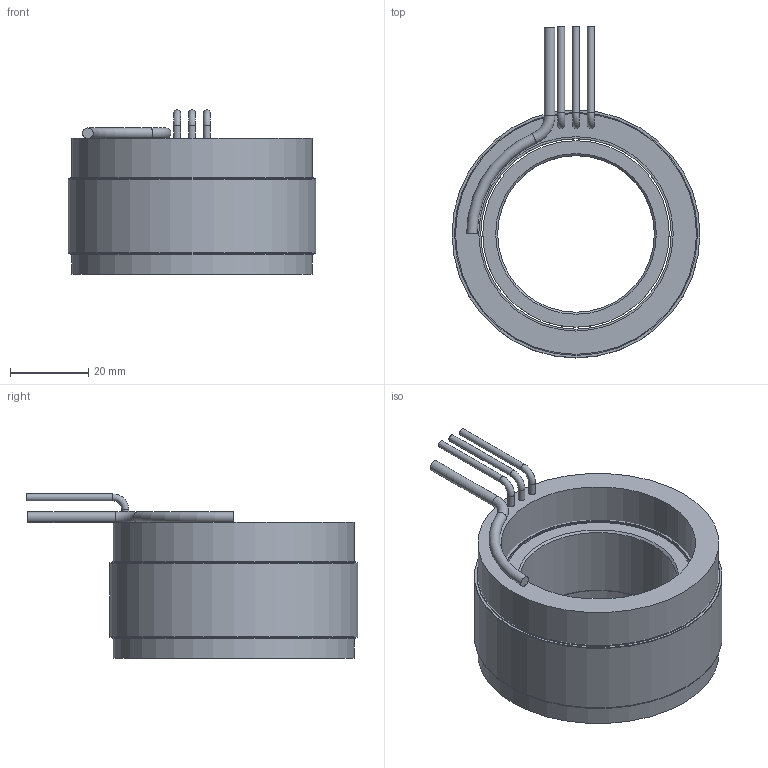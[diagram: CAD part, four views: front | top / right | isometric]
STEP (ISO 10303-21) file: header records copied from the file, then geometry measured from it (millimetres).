
FILE_DESCRIPTION (( 'STEP AP214' ), '1' );
FILE_NAME ('6100391-02.STEP', '2020-12-15T01:33:25', ( '' ), ( '' ), 'SwSTEP 2.0', 'SolidWorks 2016', '' );
FILE_SCHEMA (( 'AUTOMOTIVE_DESIGN' ));
Length unit declared in the file: inch
Products named in the file (10): 4150178-XX_4150178-02; 4450189-XX_4450189-02; 4400101-00; COMP4500558-XX(COIL)_COMP4500558-02COIL); 6100391-02; 4500558-XX_4500558-02; 4250379-XX_4250379-02; 4600565-00
Assembly tree (10 placements, depth 4):
  6100391-02
    4250379-XX_4250379-02
      4150178-XX_4150178-02
    4500558-XX_4500558-02
      4450189-XX_4450189-02
        4450189-XX_4450189-02
        4400101-00
        4400101-00
        4600565-00  x2
      COMP4500558-XX(COIL)_COMP4500558-02COIL)
Bounding box: 63.5 x 84.96 x 42.04 mm (x, y, z)
Volume: 72291.4 mm3; surface area: 40943.5 mm2
Topology: 8 solids, 8 shells, 47 faces, 74 edges, 46 vertices
Faces by surface type: cylinder 21, plane 19, torus 5, cone 2
Full cylindrical faces by diameter (mm): 1.778 x6, 2.72 x1, 40.132 x1, 47.752 x1, 48.768 x5, 49.783 x1, 61.722 x1, 62.23 x2, 63.5 x3
Entity records: 1305 total; most frequent: DIRECTION 202, CARTESIAN_POINT 143, AXIS2_PLACEMENT_3D 101, EDGE_LOOP 84, ORIENTED_EDGE 84, FACE_OUTER_BOUND 67, ADVANCED_FACE 43, VERTEX_POINT 42
